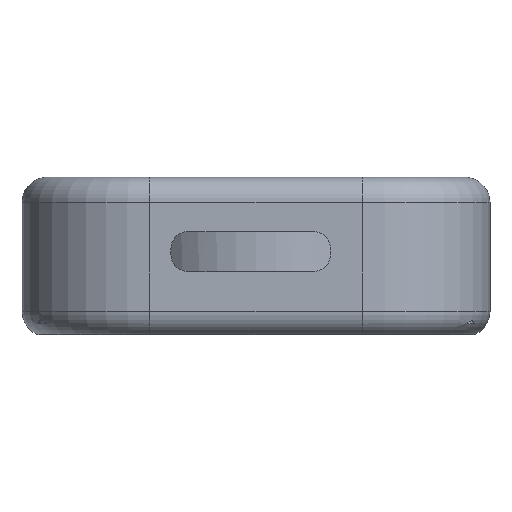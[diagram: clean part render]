
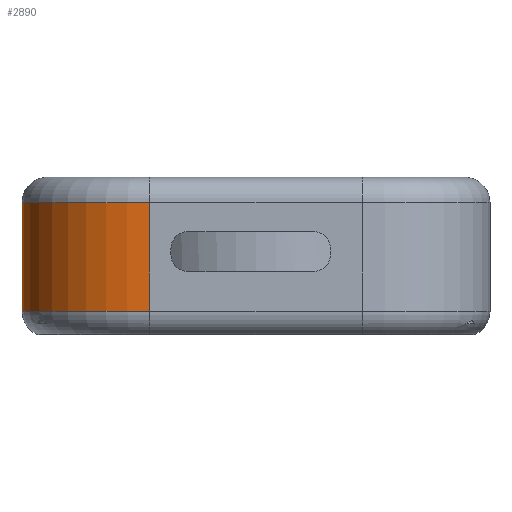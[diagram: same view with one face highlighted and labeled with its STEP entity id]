
A CAD part, front view. The second image highlights one B-rep face of the part: STEP entity #2890.
In plain terms, the highlighted cylindrical face has radius 24 mm (diameter 48 mm), a partial arc.
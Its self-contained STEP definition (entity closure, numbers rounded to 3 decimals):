
#296 = TOROIDAL_SURFACE('',#297,19.2,4.8);
#297 = AXIS2_PLACEMENT_3D('',#298,#299,#300);
#298 = CARTESIAN_POINT('',(-20.,-44.,-10.2));
#299 = DIRECTION('',(-0.,-0.,-1.));
#300 = DIRECTION('',(0.,-1.,0.));
#1101 = VERTEX_POINT('',#1102);
#1102 = CARTESIAN_POINT('',(-20.,-68.,-10.2));
#1127 = EDGE_CURVE('',#1101,#1128,#1130,.T.);
#1128 = VERTEX_POINT('',#1129);
#1129 = CARTESIAN_POINT('',(-44.,-44.,-10.2));
#1130 = SURFACE_CURVE('',#1131,(#1136,#1143),.PCURVE_S1.);
#1131 = CIRCLE('',#1132,24.);
#1132 = AXIS2_PLACEMENT_3D('',#1133,#1134,#1135);
#1133 = CARTESIAN_POINT('',(-20.,-44.,-10.2));
#1134 = DIRECTION('',(-0.,0.,-1.));
#1135 = DIRECTION('',(0.,-1.,0.));
#1136 = PCURVE('',#296,#1137);
#1137 = DEFINITIONAL_REPRESENTATION('',(#1138),#1142);
#1138 = LINE('',#1139,#1140);
#1139 = CARTESIAN_POINT('',(0.,0.));
#1140 = VECTOR('',#1141,1.);
#1141 = DIRECTION('',(1.,0.));
#1142 = ( GEOMETRIC_REPRESENTATION_CONTEXT(2) 
PARAMETRIC_REPRESENTATION_CONTEXT() REPRESENTATION_CONTEXT('2D SPACE',''
  ) );
#1143 = PCURVE('',#1144,#1149);
#1144 = CYLINDRICAL_SURFACE('',#1145,24.);
#1145 = AXIS2_PLACEMENT_3D('',#1146,#1147,#1148);
#1146 = CARTESIAN_POINT('',(-20.,-44.,-15.));
#1147 = DIRECTION('',(0.,0.,1.));
#1148 = DIRECTION('',(-1.,-0.,0.));
#1149 = DEFINITIONAL_REPRESENTATION('',(#1150),#1154);
#1150 = LINE('',#1151,#1152);
#1151 = CARTESIAN_POINT('',(1.571,4.8));
#1152 = VECTOR('',#1153,1.);
#1153 = DIRECTION('',(-1.,-0.));
#1154 = ( GEOMETRIC_REPRESENTATION_CONTEXT(2) 
PARAMETRIC_REPRESENTATION_CONTEXT() REPRESENTATION_CONTEXT('2D SPACE',''
  ) );
#2223 = PLANE('',#2224);
#2224 = AXIS2_PLACEMENT_3D('',#2225,#2226,#2227);
#2225 = CARTESIAN_POINT('',(-44.,-68.,-15.));
#2226 = DIRECTION('',(1.,0.,0.));
#2227 = DIRECTION('',(0.,0.,1.));
#2852 = PLANE('',#2853);
#2853 = AXIS2_PLACEMENT_3D('',#2854,#2855,#2856);
#2854 = CARTESIAN_POINT('',(-44.,-68.,-15.));
#2855 = DIRECTION('',(0.,1.,0.));
#2856 = DIRECTION('',(0.,0.,1.));
#2890 = ADVANCED_FACE('',(#2891),#1144,.T.);
#2891 = FACE_BOUND('',#2892,.T.);
#2892 = EDGE_LOOP('',(#2893,#2916,#2917,#2940));
#2893 = ORIENTED_EDGE('',*,*,#2894,.F.);
#2894 = EDGE_CURVE('',#1128,#2895,#2897,.T.);
#2895 = VERTEX_POINT('',#2896);
#2896 = CARTESIAN_POINT('',(-44.,-44.,10.2));
#2897 = SURFACE_CURVE('',#2898,(#2902,#2909),.PCURVE_S1.);
#2898 = LINE('',#2899,#2900);
#2899 = CARTESIAN_POINT('',(-44.,-44.,-15.));
#2900 = VECTOR('',#2901,1.);
#2901 = DIRECTION('',(0.,0.,1.));
#2902 = PCURVE('',#1144,#2903);
#2903 = DEFINITIONAL_REPRESENTATION('',(#2904),#2908);
#2904 = LINE('',#2905,#2906);
#2905 = CARTESIAN_POINT('',(0.,0.));
#2906 = VECTOR('',#2907,1.);
#2907 = DIRECTION('',(0.,1.));
#2908 = ( GEOMETRIC_REPRESENTATION_CONTEXT(2) 
PARAMETRIC_REPRESENTATION_CONTEXT() REPRESENTATION_CONTEXT('2D SPACE',''
  ) );
#2909 = PCURVE('',#2223,#2910);
#2910 = DEFINITIONAL_REPRESENTATION('',(#2911),#2915);
#2911 = LINE('',#2912,#2913);
#2912 = CARTESIAN_POINT('',(0.,-24.));
#2913 = VECTOR('',#2914,1.);
#2914 = DIRECTION('',(1.,0.));
#2915 = ( GEOMETRIC_REPRESENTATION_CONTEXT(2) 
PARAMETRIC_REPRESENTATION_CONTEXT() REPRESENTATION_CONTEXT('2D SPACE',''
  ) );
#2916 = ORIENTED_EDGE('',*,*,#1127,.F.);
#2917 = ORIENTED_EDGE('',*,*,#2918,.T.);
#2918 = EDGE_CURVE('',#1101,#2919,#2921,.T.);
#2919 = VERTEX_POINT('',#2920);
#2920 = CARTESIAN_POINT('',(-20.,-68.,10.2));
#2921 = SURFACE_CURVE('',#2922,(#2926,#2933),.PCURVE_S1.);
#2922 = LINE('',#2923,#2924);
#2923 = CARTESIAN_POINT('',(-20.,-68.,-15.));
#2924 = VECTOR('',#2925,1.);
#2925 = DIRECTION('',(0.,0.,1.));
#2926 = PCURVE('',#1144,#2927);
#2927 = DEFINITIONAL_REPRESENTATION('',(#2928),#2932);
#2928 = LINE('',#2929,#2930);
#2929 = CARTESIAN_POINT('',(1.571,0.));
#2930 = VECTOR('',#2931,1.);
#2931 = DIRECTION('',(0.,1.));
#2932 = ( GEOMETRIC_REPRESENTATION_CONTEXT(2) 
PARAMETRIC_REPRESENTATION_CONTEXT() REPRESENTATION_CONTEXT('2D SPACE',''
  ) );
#2933 = PCURVE('',#2852,#2934);
#2934 = DEFINITIONAL_REPRESENTATION('',(#2935),#2939);
#2935 = LINE('',#2936,#2937);
#2936 = CARTESIAN_POINT('',(0.,24.));
#2937 = VECTOR('',#2938,1.);
#2938 = DIRECTION('',(1.,0.));
#2939 = ( GEOMETRIC_REPRESENTATION_CONTEXT(2) 
PARAMETRIC_REPRESENTATION_CONTEXT() REPRESENTATION_CONTEXT('2D SPACE',''
  ) );
#2940 = ORIENTED_EDGE('',*,*,#2941,.T.);
#2941 = EDGE_CURVE('',#2919,#2895,#2942,.T.);
#2942 = SURFACE_CURVE('',#2943,(#2948,#2955),.PCURVE_S1.);
#2943 = CIRCLE('',#2944,24.);
#2944 = AXIS2_PLACEMENT_3D('',#2945,#2946,#2947);
#2945 = CARTESIAN_POINT('',(-20.,-44.,10.2));
#2946 = DIRECTION('',(-0.,0.,-1.));
#2947 = DIRECTION('',(0.,-1.,0.));
#2948 = PCURVE('',#1144,#2949);
#2949 = DEFINITIONAL_REPRESENTATION('',(#2950),#2954);
#2950 = LINE('',#2951,#2952);
#2951 = CARTESIAN_POINT('',(1.571,25.2));
#2952 = VECTOR('',#2953,1.);
#2953 = DIRECTION('',(-1.,-0.));
#2954 = ( GEOMETRIC_REPRESENTATION_CONTEXT(2) 
PARAMETRIC_REPRESENTATION_CONTEXT() REPRESENTATION_CONTEXT('2D SPACE',''
  ) );
#2955 = PCURVE('',#2956,#2961);
#2956 = TOROIDAL_SURFACE('',#2957,19.2,4.8);
#2957 = AXIS2_PLACEMENT_3D('',#2958,#2959,#2960);
#2958 = CARTESIAN_POINT('',(-20.,-44.,10.2));
#2959 = DIRECTION('',(0.,0.,1.));
#2960 = DIRECTION('',(0.,-1.,0.));
#2961 = DEFINITIONAL_REPRESENTATION('',(#2962),#2966);
#2962 = LINE('',#2963,#2964);
#2963 = CARTESIAN_POINT('',(-0.,0.));
#2964 = VECTOR('',#2965,1.);
#2965 = DIRECTION('',(-1.,0.));
#2966 = ( GEOMETRIC_REPRESENTATION_CONTEXT(2) 
PARAMETRIC_REPRESENTATION_CONTEXT() REPRESENTATION_CONTEXT('2D SPACE',''
  ) );
